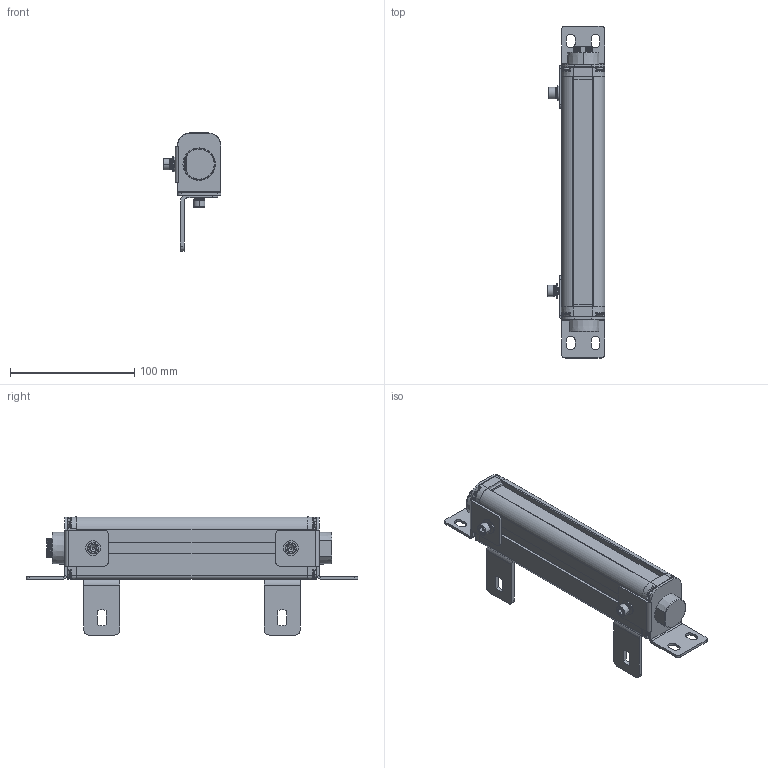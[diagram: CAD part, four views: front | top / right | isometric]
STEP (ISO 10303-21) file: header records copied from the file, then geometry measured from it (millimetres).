
FILE_DESCRIPTION((''),'2;1');
FILE_NAME('ESN--000_ASM','2021-08-10T16:40:43',('18720616900'),(''),'CREO PARAMETRIC BY PTC INC, 2019010','CREO PARAMETRIC BY PTC INC, 2019010','');
FILE_SCHEMA(('CONFIG_CONTROL_DESIGN'));
Products named in the file (22): 00; 000; _0002; _0003; _0004; 5000; 5--0001; ESN_50001_ASM; ST-3-120001; L10001; M6-8--0001; M6-1--00; M6-1-00; M6-80001_ASM; L1--0001_ASM; H1--000; H1--0003_ASM; H1--0001_ASM; ESN--000_ASM
Assembly tree (35 placements, depth 4):
  ESN--000_ASM
    00
    000
    _0002
    _0003
    _0004
    000
    ESN_50001_ASM
      5000
      5--0001  x5
    ST-3-120001  x8
    L1--0001_ASM  x2
      L10001
      M6-80001_ASM
        M6-8--0001
        M6-1--00
        M6-1-00
        00
    H1--0003_ASM
      H1--000
      M6-80001_ASM
        M6-8--0001
        M6-1--00
        M6-1-00
        00
    H1--0001_ASM
      H1--000
      M6-80001_ASM
        M6-8--0001
        M6-1--00
        M6-1-00
        00
Bounding box: 46.5 x 267 x 94.95 mm (x, y, z)
Volume: 333147.1 mm3; surface area: 104920.9 mm2
Topology: 40 solids, 40 shells, 1785 faces, 4708 edges, 3012 vertices
Faces by surface type: plane 583, cylinder 416, bspline 362, cone 291, torus 107, sphere 26
Entity records: 48222 total; most frequent: CARTESIAN_POINT 24957, ORIENTED_EDGE 5136, DIRECTION 4189, EDGE_CURVE 2568, VERTEX_POINT 1669, AXIS2_PLACEMENT_3D 1488, VECTOR 1213, LINE 1213
